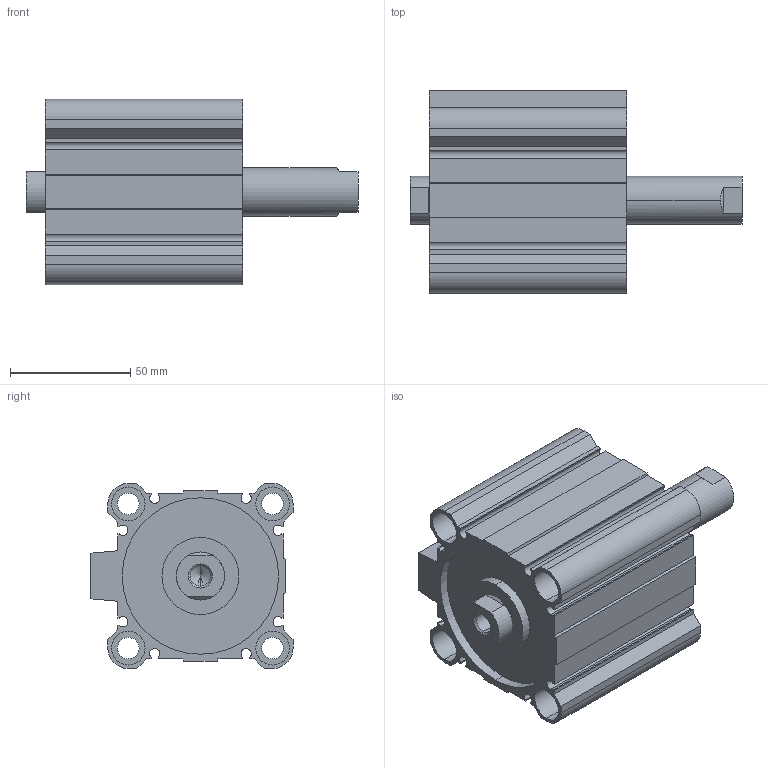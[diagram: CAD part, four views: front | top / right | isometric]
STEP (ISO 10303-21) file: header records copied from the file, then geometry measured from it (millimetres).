
FILE_DESCRIPTION (( 'STEP AP203' ), '1' );
FILE_NAME ('CCMB63-40F-P.STEP', '2020-08-05T11:47:27', ( '' ), ( '' ), 'SwSTEP 2.0', 'SolidWorks 2019', '' );
FILE_SCHEMA (( 'CONFIG_CONTROL_DESIGN' ));
Length unit declared in the file: millimetre
Products named in the file (1): CCMB63-40F-P
Bounding box: 138 x 84 x 77 mm (x, y, z)
Volume: 280534.8 mm3; surface area: 93398.3 mm2
Topology: 2 solids, 2 shells, 176 faces, 450 edges, 294 vertices
Faces by surface type: plane 90, cylinder 74, cone 12
Entity records: 5421 total; most frequent: DIRECTION 948, CARTESIAN_POINT 941, ORIENTED_EDGE 892, EDGE_CURVE 446, AXIS2_PLACEMENT_3D 333, VERTEX_POINT 294, LINE 282, VECTOR 282
